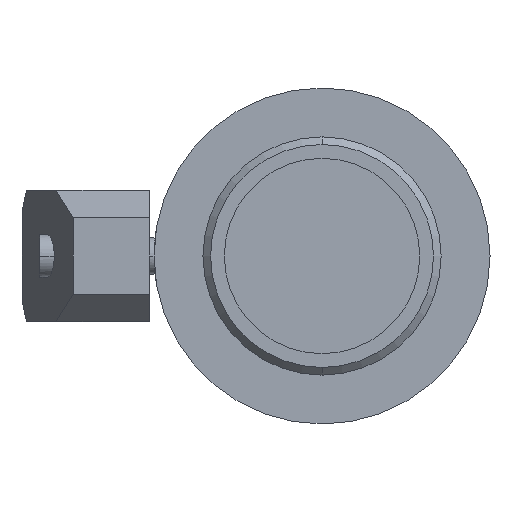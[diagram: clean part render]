
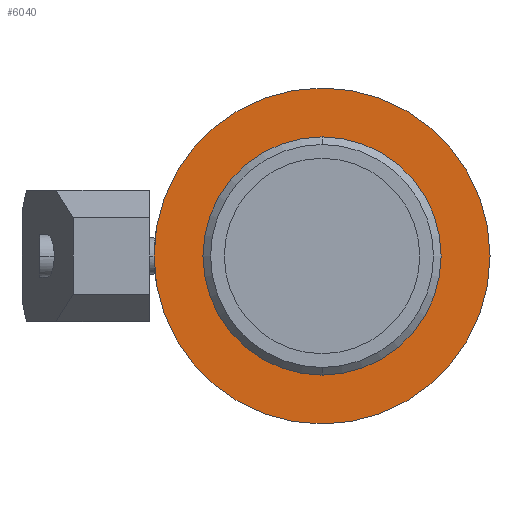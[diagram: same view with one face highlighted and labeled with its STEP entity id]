
A CAD part, left-side view. The second image highlights one B-rep face of the part: STEP entity #6040.
In plain terms, the highlighted planar face has unit normal (-1, 0, 0).
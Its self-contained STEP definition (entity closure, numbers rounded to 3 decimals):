
#530=CARTESIAN_POINT('',(62.018,6.765,0.));
#540=VERTEX_POINT('',#530);
#630=CARTESIAN_POINT('',(62.018,81.765,0.));
#640=VERTEX_POINT('',#630);
#670=CARTESIAN_POINT('',(62.018,44.265,0.));
#680=DIRECTION('',(-1.,0.,0.));
#690=DIRECTION('',(0.,1.,0.));
#700=AXIS2_PLACEMENT_3D('',#670,#680,#690);
#710=CIRCLE('',#700,37.5);
#720=EDGE_CURVE('',#540,#640,#710,.T.);
#1280=CARTESIAN_POINT('',(62.018,99.265,0.));
#1290=VERTEX_POINT('',#1280);
#1470=CARTESIAN_POINT('',(62.018,-10.735,0.));
#1480=VERTEX_POINT('',#1470);
#1510=CARTESIAN_POINT('',(62.018,44.265,0.));
#1520=DIRECTION('',(1.,0.,0.));
#1530=DIRECTION('',(0.,-1.,0.));
#1540=AXIS2_PLACEMENT_3D('',#1510,#1520,#1530);
#1550=CIRCLE('',#1540,55.);
#1560=EDGE_CURVE('',#1290,#1480,#1550,.T.);
#5890=CARTESIAN_POINT('',(62.018,90.515,0.));
#5900=DIRECTION('',(1.,0.,0.));
#5910=DIRECTION('',(0.,-1.,0.));
#5920=AXIS2_PLACEMENT_3D('',#5890,#5900,#5910);
#5930=PLANE('',#5920);
#5940=EDGE_CURVE('',#1480,#1290,#1550,.T.);
#5950=ORIENTED_EDGE('',*,*,#5940,.F.);
#5960=ORIENTED_EDGE('',*,*,#1560,.F.);
#5970=EDGE_LOOP('',(#5960,#5950));
#5980=FACE_OUTER_BOUND('',#5970,.T.);
#5990=EDGE_CURVE('',#640,#540,#710,.T.);
#6000=ORIENTED_EDGE('',*,*,#5990,.F.);
#6010=ORIENTED_EDGE('',*,*,#720,.F.);
#6020=EDGE_LOOP('',(#6010,#6000));
#6030=FACE_BOUND('',#6020,.T.);
#6040=ADVANCED_FACE('',(#5980,#6030),#5930,.F.);
